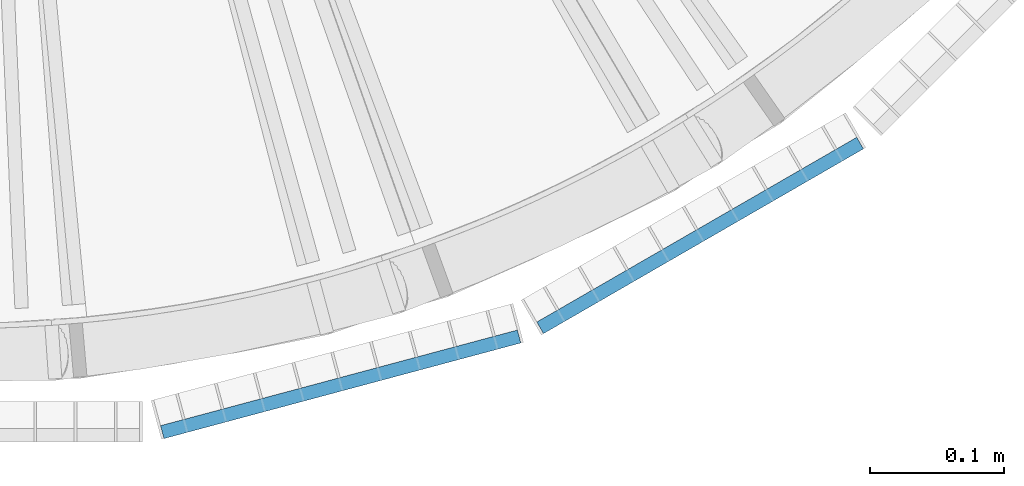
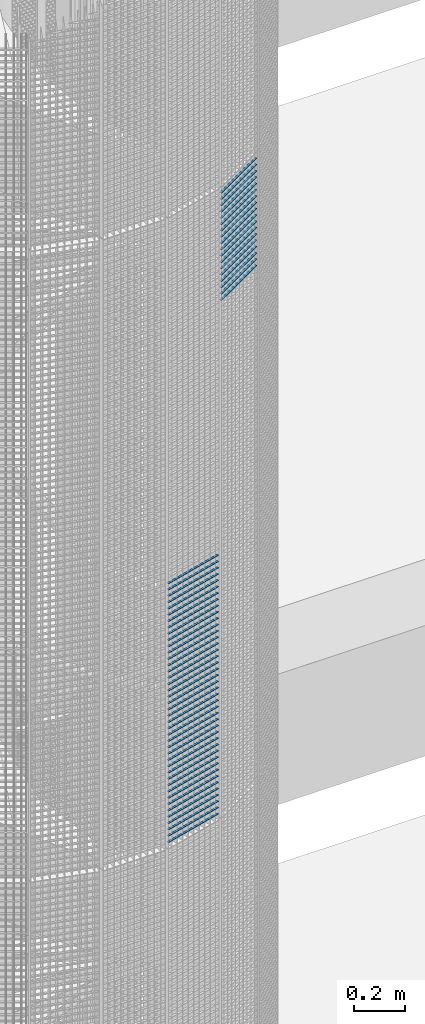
# One storey, part 384 of 1148: 60 beams, 2 elements without a shape of their own.
"""IFC2X3 building model written with IfcOpenShell, lengths in millimetres."""

from ifc_helpers import new_model, si_unit, frame, origin_with_axes, origin_2d_with_axis, place, context, subcontext, project, spatial, rectangle, extrude, material, type_object, element, aggregate, save


model = new_model("IFC2X3")

# Units and contexts
model_context = context("Model", 3, precision=1e-05, world=origin_with_axes())
body_context = subcontext(model_context, "Body", "Model", "MODEL_VIEW")
ifc_project = project(units=[si_unit("LENGTHUNIT", "METRE", prefix="MILLI"), si_unit("AREAUNIT", "SQUARE_METRE"), si_unit("VOLUMEUNIT", "CUBIC_METRE"), si_unit("MASSUNIT", "GRAM", prefix="KILO"), si_unit("TIMEUNIT", "SECOND"), si_unit("PLANEANGLEUNIT", "RADIAN"), si_unit("SOLIDANGLEUNIT", "STERADIAN"), si_unit("THERMODYNAMICTEMPERATUREUNIT", "DEGREE_CELSIUS"), si_unit("LUMINOUSINTENSITYUNIT", "LUMEN")], contexts=[model_context])

# Site, building, storey
site_placement = place(None, origin_with_axes())
site = spatial("IfcSite", under=ifc_project, at=site_placement, Name="Undefined", CompositionType="ELEMENT")
building_placement = place(site_placement, origin_with_axes())
building = spatial("IfcBuilding", under=site, at=building_placement, Name="Undefined", CompositionType="ELEMENT")
storey_placement = place(building_placement, origin_with_axes())
storey = spatial("IfcBuildingStorey", under=building, at=storey_placement, Name="Undefined", CompositionType="ELEMENT", Elevation=0.0)

# Assembly, beams
assembly_1_placement = place(storey_placement, origin_with_axes())
assembly_1 = element("IfcElementAssembly", 1, at=assembly_1_placement, inside=storey, Name="BORDURE", AssemblyPlace="NOTDEFINED", PredefinedType="NOTDEFINED")
ifc_material = material(Name="STEEL/S235JR")
beam_type = type_object("IfcBeamType", Name="PL2*10", PredefinedType="NOTDEFINED")
beam_1_placement = place(assembly_1_placement, frame((22021.4837339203, -1039.82309522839, 13260.0), z_axis=(0.258819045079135, -0.965925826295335, 0.0), x_axis=(-0.965925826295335, -0.258819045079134, 0.0)))
beam_1 = element("IfcBeam", 2, at=beam_1_placement, type_object=beam_type, material=ifc_material, Name="ENTRETOISE", context=body_context, shape_type="SweptSolid", body=[
    extrude(rectangle(XDim=2.0, YDim=10.0, at=origin_2d_with_axis()), frame((275.999999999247, 9.09494701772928e-13, 1.53210777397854e-14), z_axis=(-1.0, 0.0, 0.0), x_axis=(0.0, -1.0, 0.0)), (0.0, 0.0, 1.0), 276.0),
])
beam_2_placement = place(assembly_1_placement, frame((22021.4837339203, -1039.82309522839, 13230.0), z_axis=(0.258819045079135, -0.965925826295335, 0.0), x_axis=(-0.965925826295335, -0.258819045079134, 0.0)))
beam_2 = element("IfcBeam", 3, at=beam_2_placement, type_object=beam_type, material=ifc_material, Name="ENTRETOISE", context=body_context, shape_type="SweptSolid", body=[
    extrude(rectangle(XDim=2.0, YDim=10.0, at=origin_2d_with_axis()), frame((275.999999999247, 9.09494701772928e-13, 1.53210777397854e-14), z_axis=(-1.0, 0.0, 0.0), x_axis=(0.0, -1.0, 0.0)), (0.0, 0.0, 1.0), 276.0),
])
beam_3_placement = place(assembly_1_placement, frame((22021.4837339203, -1039.82309522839, 13200.0), z_axis=(0.258819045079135, -0.965925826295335, 0.0), x_axis=(-0.965925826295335, -0.258819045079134, 0.0)))
beam_3 = element("IfcBeam", 4, at=beam_3_placement, type_object=beam_type, material=ifc_material, Name="ENTRETOISE", context=body_context, shape_type="SweptSolid", body=[
    extrude(rectangle(XDim=2.0, YDim=10.0, at=origin_2d_with_axis()), frame((275.999999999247, 9.09494701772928e-13, 1.53210777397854e-14), z_axis=(-1.0, 0.0, 0.0), x_axis=(0.0, -1.0, 0.0)), (0.0, 0.0, 1.0), 276.0),
])
beam_4_placement = place(assembly_1_placement, frame((22021.4837339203, -1039.82309522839, 13170.0), z_axis=(0.258819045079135, -0.965925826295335, 0.0), x_axis=(-0.965925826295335, -0.258819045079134, 0.0)))
beam_4 = element("IfcBeam", 5, at=beam_4_placement, type_object=beam_type, material=ifc_material, Name="ENTRETOISE", context=body_context, shape_type="SweptSolid", body=[
    extrude(rectangle(XDim=2.0, YDim=10.0, at=origin_2d_with_axis()), frame((275.999999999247, 9.09494701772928e-13, 1.53210777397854e-14), z_axis=(-1.0, 0.0, 0.0), x_axis=(0.0, -1.0, 0.0)), (0.0, 0.0, 1.0), 276.0),
])
beam_5_placement = place(assembly_1_placement, frame((22021.4837339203, -1039.82309522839, 13140.0), z_axis=(0.258819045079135, -0.965925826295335, 0.0), x_axis=(-0.965925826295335, -0.258819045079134, 0.0)))
beam_5 = element("IfcBeam", 6, at=beam_5_placement, type_object=beam_type, material=ifc_material, Name="ENTRETOISE", context=body_context, shape_type="SweptSolid", body=[
    extrude(rectangle(XDim=2.0, YDim=10.0, at=origin_2d_with_axis()), frame((275.999999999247, 9.09494701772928e-13, 1.53210777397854e-14), z_axis=(-1.0, 0.0, 0.0), x_axis=(0.0, -1.0, 0.0)), (0.0, 0.0, 1.0), 276.0),
])
beam_6_placement = place(assembly_1_placement, frame((22021.4837339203, -1039.82309522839, 12720.0), z_axis=(0.258819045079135, -0.965925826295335, 0.0), x_axis=(-0.965925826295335, -0.258819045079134, 0.0)))
beam_6 = element("IfcBeam", 7, at=beam_6_placement, type_object=beam_type, material=ifc_material, Name="ENTRETOISE", context=body_context, shape_type="SweptSolid", body=[
    extrude(rectangle(XDim=2.0, YDim=10.0, at=origin_2d_with_axis()), frame((275.999999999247, 9.09494701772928e-13, 1.53210777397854e-14), z_axis=(-1.0, 0.0, 0.0), x_axis=(0.0, -1.0, 0.0)), (0.0, 0.0, 1.0), 276.0),
])
beam_7_placement = place(assembly_1_placement, frame((22021.4837339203, -1039.82309522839, 12690.0), z_axis=(0.258819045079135, -0.965925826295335, 0.0), x_axis=(-0.965925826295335, -0.258819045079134, 0.0)))
beam_7 = element("IfcBeam", 8, at=beam_7_placement, type_object=beam_type, material=ifc_material, Name="ENTRETOISE", context=body_context, shape_type="SweptSolid", body=[
    extrude(rectangle(XDim=2.0, YDim=10.0, at=origin_2d_with_axis()), frame((275.999999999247, 9.09494701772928e-13, 1.53210777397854e-14), z_axis=(-1.0, 0.0, 0.0), x_axis=(0.0, -1.0, 0.0)), (0.0, 0.0, 1.0), 276.0),
])
beam_8_placement = place(assembly_1_placement, frame((22021.4837339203, -1039.82309522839, 12750.0), z_axis=(0.258819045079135, -0.965925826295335, 0.0), x_axis=(-0.965925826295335, -0.258819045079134, 0.0)))
beam_8 = element("IfcBeam", 9, at=beam_8_placement, type_object=beam_type, material=ifc_material, Name="ENTRETOISE", context=body_context, shape_type="SweptSolid", body=[
    extrude(rectangle(XDim=2.0, YDim=10.0, at=origin_2d_with_axis()), frame((275.999999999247, 9.09494701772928e-13, 1.53210777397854e-14), z_axis=(-1.0, 0.0, 0.0), x_axis=(0.0, -1.0, 0.0)), (0.0, 0.0, 1.0), 276.0),
])
beam_9_placement = place(assembly_1_placement, frame((22021.4837339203, -1039.82309522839, 12660.0), z_axis=(0.258819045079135, -0.965925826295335, 0.0), x_axis=(-0.965925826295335, -0.258819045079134, 0.0)))
beam_9 = element("IfcBeam", 10, at=beam_9_placement, type_object=beam_type, material=ifc_material, Name="ENTRETOISE", context=body_context, shape_type="SweptSolid", body=[
    extrude(rectangle(XDim=2.0, YDim=10.0, at=origin_2d_with_axis()), frame((275.999999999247, 9.09494701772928e-13, 1.53210777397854e-14), z_axis=(-1.0, 0.0, 0.0), x_axis=(0.0, -1.0, 0.0)), (0.0, 0.0, 1.0), 276.0),
])
beam_10_placement = place(assembly_1_placement, frame((22021.4837339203, -1039.82309522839, 12630.0), z_axis=(0.258819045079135, -0.965925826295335, 0.0), x_axis=(-0.965925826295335, -0.258819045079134, 0.0)))
beam_10 = element("IfcBeam", 11, at=beam_10_placement, type_object=beam_type, material=ifc_material, Name="ENTRETOISE", context=body_context, shape_type="SweptSolid", body=[
    extrude(rectangle(XDim=2.0, YDim=10.0, at=origin_2d_with_axis()), frame((275.999999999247, 9.09494701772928e-13, 1.53210777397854e-14), z_axis=(-1.0, 0.0, 0.0), x_axis=(0.0, -1.0, 0.0)), (0.0, 0.0, 1.0), 276.0),
])
beam_11_placement = place(assembly_1_placement, frame((22021.4837339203, -1039.82309522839, 12780.0), z_axis=(0.258819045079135, -0.965925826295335, 0.0), x_axis=(-0.965925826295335, -0.258819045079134, 0.0)))
beam_11 = element("IfcBeam", 12, at=beam_11_placement, type_object=beam_type, material=ifc_material, Name="ENTRETOISE", context=body_context, shape_type="SweptSolid", body=[
    extrude(rectangle(XDim=2.0, YDim=10.0, at=origin_2d_with_axis()), frame((275.999999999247, 9.09494701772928e-13, 1.53210777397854e-14), z_axis=(-1.0, 0.0, 0.0), x_axis=(0.0, -1.0, 0.0)), (0.0, 0.0, 1.0), 276.0),
])
beam_12_placement = place(assembly_1_placement, frame((22021.4837339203, -1039.82309522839, 12600.0), z_axis=(0.258819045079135, -0.965925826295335, 0.0), x_axis=(-0.965925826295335, -0.258819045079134, 0.0)))
beam_12 = element("IfcBeam", 13, at=beam_12_placement, type_object=beam_type, material=ifc_material, Name="ENTRETOISE", context=body_context, shape_type="SweptSolid", body=[
    extrude(rectangle(XDim=2.0, YDim=10.0, at=origin_2d_with_axis()), frame((275.999999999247, 9.09494701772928e-13, 1.53210777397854e-14), z_axis=(-1.0, 0.0, 0.0), x_axis=(0.0, -1.0, 0.0)), (0.0, 0.0, 1.0), 276.0),
])
beam_13_placement = place(assembly_1_placement, frame((22021.4837339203, -1039.82309522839, 12810.0), z_axis=(0.258819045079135, -0.965925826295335, 0.0), x_axis=(-0.965925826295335, -0.258819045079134, 0.0)))
beam_13 = element("IfcBeam", 14, at=beam_13_placement, type_object=beam_type, material=ifc_material, Name="ENTRETOISE", context=body_context, shape_type="SweptSolid", body=[
    extrude(rectangle(XDim=2.0, YDim=10.0, at=origin_2d_with_axis()), frame((275.999999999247, 9.09494701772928e-13, 1.53210777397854e-14), z_axis=(-1.0, 0.0, 0.0), x_axis=(0.0, -1.0, 0.0)), (0.0, 0.0, 1.0), 276.0),
])
beam_14_placement = place(assembly_1_placement, frame((22021.4837339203, -1039.82309522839, 12570.0), z_axis=(0.258819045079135, -0.965925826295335, 0.0), x_axis=(-0.965925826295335, -0.258819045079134, 0.0)))
beam_14 = element("IfcBeam", 15, at=beam_14_placement, type_object=beam_type, material=ifc_material, Name="ENTRETOISE", context=body_context, shape_type="SweptSolid", body=[
    extrude(rectangle(XDim=2.0, YDim=10.0, at=origin_2d_with_axis()), frame((275.999999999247, 9.09494701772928e-13, 1.53210777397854e-14), z_axis=(-1.0, 0.0, 0.0), x_axis=(0.0, -1.0, 0.0)), (0.0, 0.0, 1.0), 276.0),
])
beam_15_placement = place(assembly_1_placement, frame((22021.4837339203, -1039.82309522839, 12540.0), z_axis=(0.258819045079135, -0.965925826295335, 0.0), x_axis=(-0.965925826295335, -0.258819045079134, 0.0)))
beam_15 = element("IfcBeam", 16, at=beam_15_placement, type_object=beam_type, material=ifc_material, Name="ENTRETOISE", context=body_context, shape_type="SweptSolid", body=[
    extrude(rectangle(XDim=2.0, YDim=10.0, at=origin_2d_with_axis()), frame((275.999999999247, 9.09494701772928e-13, 1.53210777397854e-14), z_axis=(-1.0, 0.0, 0.0), x_axis=(0.0, -1.0, 0.0)), (0.0, 0.0, 1.0), 276.0),
])
beam_16_placement = place(assembly_1_placement, frame((22021.4837339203, -1039.82309522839, 12840.0), z_axis=(0.258819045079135, -0.965925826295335, 0.0), x_axis=(-0.965925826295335, -0.258819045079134, 0.0)))
beam_16 = element("IfcBeam", 17, at=beam_16_placement, type_object=beam_type, material=ifc_material, Name="ENTRETOISE", context=body_context, shape_type="SweptSolid", body=[
    extrude(rectangle(XDim=2.0, YDim=10.0, at=origin_2d_with_axis()), frame((275.999999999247, 9.09494701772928e-13, 1.53210777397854e-14), z_axis=(-1.0, 0.0, 0.0), x_axis=(0.0, -1.0, 0.0)), (0.0, 0.0, 1.0), 276.0),
])
beam_17_placement = place(assembly_1_placement, frame((22021.4837339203, -1039.82309522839, 12510.0), z_axis=(0.258819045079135, -0.965925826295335, 0.0), x_axis=(-0.965925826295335, -0.258819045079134, 0.0)))
beam_17 = element("IfcBeam", 18, at=beam_17_placement, type_object=beam_type, material=ifc_material, Name="ENTRETOISE", context=body_context, shape_type="SweptSolid", body=[
    extrude(rectangle(XDim=2.0, YDim=10.0, at=origin_2d_with_axis()), frame((275.999999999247, 9.09494701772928e-13, 1.53210777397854e-14), z_axis=(-1.0, 0.0, 0.0), x_axis=(0.0, -1.0, 0.0)), (0.0, 0.0, 1.0), 276.0),
])
beam_18_placement = place(assembly_1_placement, frame((22021.4837339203, -1039.82309522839, 12480.0), z_axis=(0.258819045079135, -0.965925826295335, 0.0), x_axis=(-0.965925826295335, -0.258819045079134, 0.0)))
beam_18 = element("IfcBeam", 19, at=beam_18_placement, type_object=beam_type, material=ifc_material, Name="ENTRETOISE", context=body_context, shape_type="SweptSolid", body=[
    extrude(rectangle(XDim=2.0, YDim=10.0, at=origin_2d_with_axis()), frame((275.999999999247, 9.09494701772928e-13, 1.53210777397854e-14), z_axis=(-1.0, 0.0, 0.0), x_axis=(0.0, -1.0, 0.0)), (0.0, 0.0, 1.0), 276.0),
])
beam_19_placement = place(assembly_1_placement, frame((22021.4837339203, -1039.82309522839, 12870.0), z_axis=(0.258819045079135, -0.965925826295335, 0.0), x_axis=(-0.965925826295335, -0.258819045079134, 0.0)))
beam_19 = element("IfcBeam", 20, at=beam_19_placement, type_object=beam_type, material=ifc_material, Name="ENTRETOISE", context=body_context, shape_type="SweptSolid", body=[
    extrude(rectangle(XDim=2.0, YDim=10.0, at=origin_2d_with_axis()), frame((275.999999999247, 9.09494701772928e-13, 1.53210777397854e-14), z_axis=(-1.0, 0.0, 0.0), x_axis=(0.0, -1.0, 0.0)), (0.0, 0.0, 1.0), 276.0),
])
beam_20_placement = place(assembly_1_placement, frame((22021.4837339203, -1039.82309522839, 12450.0), z_axis=(0.258819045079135, -0.965925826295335, 0.0), x_axis=(-0.965925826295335, -0.258819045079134, 0.0)))
beam_20 = element("IfcBeam", 21, at=beam_20_placement, type_object=beam_type, material=ifc_material, Name="ENTRETOISE", context=body_context, shape_type="SweptSolid", body=[
    extrude(rectangle(XDim=2.0, YDim=10.0, at=origin_2d_with_axis()), frame((275.999999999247, 9.09494701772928e-13, 1.53210777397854e-14), z_axis=(-1.0, 0.0, 0.0), x_axis=(0.0, -1.0, 0.0)), (0.0, 0.0, 1.0), 276.0),
])
beam_21_placement = place(assembly_1_placement, frame((22021.4837339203, -1039.82309522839, 12420.0), z_axis=(0.258819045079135, -0.965925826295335, 0.0), x_axis=(-0.965925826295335, -0.258819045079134, 0.0)))
beam_21 = element("IfcBeam", 22, at=beam_21_placement, type_object=beam_type, material=ifc_material, Name="ENTRETOISE", context=body_context, shape_type="SweptSolid", body=[
    extrude(rectangle(XDim=2.0, YDim=10.0, at=origin_2d_with_axis()), frame((275.999999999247, 9.09494701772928e-13, 1.53210777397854e-14), z_axis=(-1.0, 0.0, 0.0), x_axis=(0.0, -1.0, 0.0)), (0.0, 0.0, 1.0), 276.0),
])
beam_22_placement = place(assembly_1_placement, frame((22021.4837339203, -1039.82309522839, 12900.0), z_axis=(0.258819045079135, -0.965925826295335, 0.0), x_axis=(-0.965925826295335, -0.258819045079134, 0.0)))
beam_22 = element("IfcBeam", 23, at=beam_22_placement, type_object=beam_type, material=ifc_material, Name="ENTRETOISE", context=body_context, shape_type="SweptSolid", body=[
    extrude(rectangle(XDim=2.0, YDim=10.0, at=origin_2d_with_axis()), frame((275.999999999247, 9.09494701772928e-13, 1.53210777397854e-14), z_axis=(-1.0, 0.0, 0.0), x_axis=(0.0, -1.0, 0.0)), (0.0, 0.0, 1.0), 276.0),
])
beam_23_placement = place(assembly_1_placement, frame((22021.4837339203, -1039.82309522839, 12390.0), z_axis=(0.258819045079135, -0.965925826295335, 0.0), x_axis=(-0.965925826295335, -0.258819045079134, 0.0)))
beam_23 = element("IfcBeam", 24, at=beam_23_placement, type_object=beam_type, material=ifc_material, Name="ENTRETOISE", context=body_context, shape_type="SweptSolid", body=[
    extrude(rectangle(XDim=2.0, YDim=10.0, at=origin_2d_with_axis()), frame((275.999999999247, 9.09494701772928e-13, 1.53210777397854e-14), z_axis=(-1.0, 0.0, 0.0), x_axis=(0.0, -1.0, 0.0)), (0.0, 0.0, 1.0), 276.0),
])
beam_24_placement = place(assembly_1_placement, frame((22021.4837339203, -1039.82309522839, 12930.0), z_axis=(0.258819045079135, -0.965925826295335, 0.0), x_axis=(-0.965925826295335, -0.258819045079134, 0.0)))
beam_24 = element("IfcBeam", 25, at=beam_24_placement, type_object=beam_type, material=ifc_material, Name="ENTRETOISE", context=body_context, shape_type="SweptSolid", body=[
    extrude(rectangle(XDim=2.0, YDim=10.0, at=origin_2d_with_axis()), frame((275.999999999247, 9.09494701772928e-13, 1.53210777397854e-14), z_axis=(-1.0, 0.0, 0.0), x_axis=(0.0, -1.0, 0.0)), (0.0, 0.0, 1.0), 276.0),
])
beam_25_placement = place(assembly_1_placement, frame((22021.4837339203, -1039.82309522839, 12360.0), z_axis=(0.258819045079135, -0.965925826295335, 0.0), x_axis=(-0.965925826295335, -0.258819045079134, 0.0)))
beam_25 = element("IfcBeam", 26, at=beam_25_placement, type_object=beam_type, material=ifc_material, Name="ENTRETOISE", context=body_context, shape_type="SweptSolid", body=[
    extrude(rectangle(XDim=2.0, YDim=10.0, at=origin_2d_with_axis()), frame((275.999999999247, 9.09494701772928e-13, 1.53210777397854e-14), z_axis=(-1.0, 0.0, 0.0), x_axis=(0.0, -1.0, 0.0)), (0.0, 0.0, 1.0), 276.0),
])
beam_26_placement = place(assembly_1_placement, frame((22021.4837339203, -1039.82309522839, 12330.0), z_axis=(0.258819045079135, -0.965925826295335, 0.0), x_axis=(-0.965925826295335, -0.258819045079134, 0.0)))
beam_26 = element("IfcBeam", 27, at=beam_26_placement, type_object=beam_type, material=ifc_material, Name="ENTRETOISE", context=body_context, shape_type="SweptSolid", body=[
    extrude(rectangle(XDim=2.0, YDim=10.0, at=origin_2d_with_axis()), frame((275.999999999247, 9.09494701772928e-13, 1.53210777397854e-14), z_axis=(-1.0, 0.0, 0.0), x_axis=(0.0, -1.0, 0.0)), (0.0, 0.0, 1.0), 276.0),
])
beam_27_placement = place(assembly_1_placement, frame((22021.4837339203, -1039.82309522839, 12960.0), z_axis=(0.258819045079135, -0.965925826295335, 0.0), x_axis=(-0.965925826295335, -0.258819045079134, 0.0)))
beam_27 = element("IfcBeam", 28, at=beam_27_placement, type_object=beam_type, material=ifc_material, Name="ENTRETOISE", context=body_context, shape_type="SweptSolid", body=[
    extrude(rectangle(XDim=2.0, YDim=10.0, at=origin_2d_with_axis()), frame((275.999999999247, 9.09494701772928e-13, 1.53210777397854e-14), z_axis=(-1.0, 0.0, 0.0), x_axis=(0.0, -1.0, 0.0)), (0.0, 0.0, 1.0), 276.0),
])
beam_28_placement = place(assembly_1_placement, frame((22021.4837339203, -1039.82309522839, 12300.0), z_axis=(0.258819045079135, -0.965925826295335, 0.0), x_axis=(-0.965925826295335, -0.258819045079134, 0.0)))
beam_28 = element("IfcBeam", 29, at=beam_28_placement, type_object=beam_type, material=ifc_material, Name="ENTRETOISE", context=body_context, shape_type="SweptSolid", body=[
    extrude(rectangle(XDim=2.0, YDim=10.0, at=origin_2d_with_axis()), frame((275.999999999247, 9.09494701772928e-13, 1.53210777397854e-14), z_axis=(-1.0, 0.0, 0.0), x_axis=(0.0, -1.0, 0.0)), (0.0, 0.0, 1.0), 276.0),
])
beam_29_placement = place(assembly_1_placement, frame((22021.4837339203, -1039.82309522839, 12270.0), z_axis=(0.258819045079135, -0.965925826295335, 0.0), x_axis=(-0.965925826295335, -0.258819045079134, 0.0)))
beam_29 = element("IfcBeam", 30, at=beam_29_placement, type_object=beam_type, material=ifc_material, Name="ENTRETOISE", context=body_context, shape_type="SweptSolid", body=[
    extrude(rectangle(XDim=2.0, YDim=10.0, at=origin_2d_with_axis()), frame((275.999999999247, 9.09494701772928e-13, 1.53210777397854e-14), z_axis=(-1.0, 0.0, 0.0), x_axis=(0.0, -1.0, 0.0)), (0.0, 0.0, 1.0), 276.0),
])
beam_30_placement = place(assembly_1_placement, frame((22021.4837339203, -1039.82309522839, 12990.0), z_axis=(0.258819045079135, -0.965925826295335, 0.0), x_axis=(-0.965925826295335, -0.258819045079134, 0.0)))
beam_30 = element("IfcBeam", 31, at=beam_30_placement, type_object=beam_type, material=ifc_material, Name="ENTRETOISE", context=body_context, shape_type="SweptSolid", body=[
    extrude(rectangle(XDim=2.0, YDim=10.0, at=origin_2d_with_axis()), frame((275.999999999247, 9.09494701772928e-13, 1.53210777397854e-14), z_axis=(-1.0, 0.0, 0.0), x_axis=(0.0, -1.0, 0.0)), (0.0, 0.0, 1.0), 276.0),
])
beam_31_placement = place(assembly_1_placement, frame((22021.4837339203, -1039.82309522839, 12240.0), z_axis=(0.258819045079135, -0.965925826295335, 0.0), x_axis=(-0.965925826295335, -0.258819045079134, 0.0)))
beam_31 = element("IfcBeam", 32, at=beam_31_placement, type_object=beam_type, material=ifc_material, Name="ENTRETOISE", context=body_context, shape_type="SweptSolid", body=[
    extrude(rectangle(XDim=2.0, YDim=10.0, at=origin_2d_with_axis()), frame((275.999999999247, 9.09494701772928e-13, 1.53210777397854e-14), z_axis=(-1.0, 0.0, 0.0), x_axis=(0.0, -1.0, 0.0)), (0.0, 0.0, 1.0), 276.0),
])
beam_32_placement = place(assembly_1_placement, frame((22021.4837339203, -1039.82309522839, 13020.0), z_axis=(0.258819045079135, -0.965925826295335, 0.0), x_axis=(-0.965925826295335, -0.258819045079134, 0.0)))
beam_32 = element("IfcBeam", 33, at=beam_32_placement, type_object=beam_type, material=ifc_material, Name="ENTRETOISE", context=body_context, shape_type="SweptSolid", body=[
    extrude(rectangle(XDim=2.0, YDim=10.0, at=origin_2d_with_axis()), frame((275.999999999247, 9.09494701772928e-13, 1.53210777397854e-14), z_axis=(-1.0, 0.0, 0.0), x_axis=(0.0, -1.0, 0.0)), (0.0, 0.0, 1.0), 276.0),
])
beam_33_placement = place(assembly_1_placement, frame((22021.4837339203, -1039.82309522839, 12210.0), z_axis=(0.258819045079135, -0.965925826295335, 0.0), x_axis=(-0.965925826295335, -0.258819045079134, 0.0)))
beam_33 = element("IfcBeam", 34, at=beam_33_placement, type_object=beam_type, material=ifc_material, Name="ENTRETOISE", context=body_context, shape_type="SweptSolid", body=[
    extrude(rectangle(XDim=2.0, YDim=10.0, at=origin_2d_with_axis()), frame((275.999999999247, 9.09494701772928e-13, 1.53210777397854e-14), z_axis=(-1.0, 0.0, 0.0), x_axis=(0.0, -1.0, 0.0)), (0.0, 0.0, 1.0), 276.0),
])
beam_34_placement = place(assembly_1_placement, frame((22021.4837339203, -1039.82309522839, 12180.0), z_axis=(0.258819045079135, -0.965925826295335, 0.0), x_axis=(-0.965925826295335, -0.258819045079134, 0.0)))
beam_34 = element("IfcBeam", 35, at=beam_34_placement, type_object=beam_type, material=ifc_material, Name="ENTRETOISE", context=body_context, shape_type="SweptSolid", body=[
    extrude(rectangle(XDim=2.0, YDim=10.0, at=origin_2d_with_axis()), frame((275.999999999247, 9.09494701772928e-13, 1.53210777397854e-14), z_axis=(-1.0, 0.0, 0.0), x_axis=(0.0, -1.0, 0.0)), (0.0, 0.0, 1.0), 276.0),
])
beam_35_placement = place(assembly_1_placement, frame((22021.4837339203, -1039.82309522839, 13050.0), z_axis=(0.258819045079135, -0.965925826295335, 0.0), x_axis=(-0.965925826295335, -0.258819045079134, 0.0)))
beam_35 = element("IfcBeam", 36, at=beam_35_placement, type_object=beam_type, material=ifc_material, Name="ENTRETOISE", context=body_context, shape_type="SweptSolid", body=[
    extrude(rectangle(XDim=2.0, YDim=10.0, at=origin_2d_with_axis()), frame((275.999999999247, 9.09494701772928e-13, 1.53210777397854e-14), z_axis=(-1.0, 0.0, 0.0), x_axis=(0.0, -1.0, 0.0)), (0.0, 0.0, 1.0), 276.0),
])
beam_36_placement = place(assembly_1_placement, frame((22021.4837339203, -1039.82309522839, 12150.0), z_axis=(0.258819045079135, -0.965925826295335, 0.0), x_axis=(-0.965925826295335, -0.258819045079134, 0.0)))
beam_36 = element("IfcBeam", 37, at=beam_36_placement, type_object=beam_type, material=ifc_material, Name="ENTRETOISE", context=body_context, shape_type="SweptSolid", body=[
    extrude(rectangle(XDim=2.0, YDim=10.0, at=origin_2d_with_axis()), frame((275.999999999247, 9.09494701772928e-13, 1.53210777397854e-14), z_axis=(-1.0, 0.0, 0.0), x_axis=(0.0, -1.0, 0.0)), (0.0, 0.0, 1.0), 276.0),
])
beam_37_placement = place(assembly_1_placement, frame((22021.4837339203, -1039.82309522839, 12120.0), z_axis=(0.258819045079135, -0.965925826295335, 0.0), x_axis=(-0.965925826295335, -0.258819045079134, 0.0)))
beam_37 = element("IfcBeam", 38, at=beam_37_placement, type_object=beam_type, material=ifc_material, Name="ENTRETOISE", context=body_context, shape_type="SweptSolid", body=[
    extrude(rectangle(XDim=2.0, YDim=10.0, at=origin_2d_with_axis()), frame((275.999999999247, 9.09494701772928e-13, 1.53210777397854e-14), z_axis=(-1.0, 0.0, 0.0), x_axis=(0.0, -1.0, 0.0)), (0.0, 0.0, 1.0), 276.0),
])
beam_38_placement = place(assembly_1_placement, frame((22021.4837339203, -1039.82309522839, 13080.0), z_axis=(0.258819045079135, -0.965925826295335, 0.0), x_axis=(-0.965925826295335, -0.258819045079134, 0.0)))
beam_38 = element("IfcBeam", 39, at=beam_38_placement, type_object=beam_type, material=ifc_material, Name="ENTRETOISE", context=body_context, shape_type="SweptSolid", body=[
    extrude(rectangle(XDim=2.0, YDim=10.0, at=origin_2d_with_axis()), frame((275.999999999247, 9.09494701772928e-13, 1.53210777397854e-14), z_axis=(-1.0, 0.0, 0.0), x_axis=(0.0, -1.0, 0.0)), (0.0, 0.0, 1.0), 276.0),
])
beam_39_placement = place(assembly_1_placement, frame((22021.4837339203, -1039.82309522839, 12090.0), z_axis=(0.258819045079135, -0.965925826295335, 0.0), x_axis=(-0.965925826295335, -0.258819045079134, 0.0)))
beam_39 = element("IfcBeam", 40, at=beam_39_placement, type_object=beam_type, material=ifc_material, Name="ENTRETOISE", context=body_context, shape_type="SweptSolid", body=[
    extrude(rectangle(XDim=2.0, YDim=10.0, at=origin_2d_with_axis()), frame((275.999999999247, 9.09494701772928e-13, 1.53210777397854e-14), z_axis=(-1.0, 0.0, 0.0), x_axis=(0.0, -1.0, 0.0)), (0.0, 0.0, 1.0), 276.0),
])
beam_40_placement = place(assembly_1_placement, frame((22021.4837339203, -1039.82309522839, 12060.0), z_axis=(0.258819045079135, -0.965925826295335, 0.0), x_axis=(-0.965925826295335, -0.258819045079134, 0.0)))
beam_40 = element("IfcBeam", 41, at=beam_40_placement, type_object=beam_type, material=ifc_material, Name="ENTRETOISE", context=body_context, shape_type="SweptSolid", body=[
    extrude(rectangle(XDim=2.0, YDim=10.0, at=origin_2d_with_axis()), frame((275.999999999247, 9.09494701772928e-13, 1.53210777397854e-14), z_axis=(-1.0, 0.0, 0.0), x_axis=(0.0, -1.0, 0.0)), (0.0, 0.0, 1.0), 276.0),
])
beam_41_placement = place(assembly_1_placement, frame((22021.4837339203, -1039.82309522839, 13110.0), z_axis=(0.258819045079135, -0.965925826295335, 0.0), x_axis=(-0.965925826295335, -0.258819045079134, 0.0)))
beam_41 = element("IfcBeam", 42, at=beam_41_placement, type_object=beam_type, material=ifc_material, Name="ENTRETOISE", context=body_context, shape_type="SweptSolid", body=[
    extrude(rectangle(XDim=2.0, YDim=10.0, at=origin_2d_with_axis()), frame((275.999999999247, 9.09494701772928e-13, 1.53210777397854e-14), z_axis=(-1.0, 0.0, 0.0), x_axis=(0.0, -1.0, 0.0)), (0.0, 0.0, 1.0), 276.0),
])
beam_42_placement = place(assembly_1_placement, frame((22021.4837339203, -1039.82309522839, 12030.0), z_axis=(0.258819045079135, -0.965925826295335, 0.0), x_axis=(-0.965925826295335, -0.258819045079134, 0.0)))
beam_42 = element("IfcBeam", 43, at=beam_42_placement, type_object=beam_type, material=ifc_material, Name="ENTRETOISE", context=body_context, shape_type="SweptSolid", body=[
    extrude(rectangle(XDim=2.0, YDim=10.0, at=origin_2d_with_axis()), frame((275.999999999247, 9.09494701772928e-13, 1.53210777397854e-14), z_axis=(-1.0, 0.0, 0.0), x_axis=(0.0, -1.0, 0.0)), (0.0, 0.0, 1.0), 276.0),
])
aggregate(assembly_1, [beam_1, beam_2, beam_3, beam_4, beam_5, beam_6, beam_7, beam_8, beam_9, beam_10, beam_11, beam_12, beam_13, beam_14, beam_15, beam_16, beam_17, beam_18, beam_19, beam_20, beam_21, beam_22, beam_23, beam_24, beam_25, beam_26, beam_27, beam_28, beam_29, beam_30, beam_31, beam_32, beam_33, beam_34, beam_35, beam_36, beam_37, beam_38, beam_39, beam_40, beam_41, beam_42])

assembly_2_placement = place(storey_placement, origin_with_axes())
assembly_2 = element("IfcElementAssembly", 44, at=assembly_2_placement, inside=storey, Name="BORDURE", AssemblyPlace="NOTDEFINED", PredefinedType="NOTDEFINED")
beam_43_placement = place(assembly_2_placement, frame((22276.2480445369, -895.303964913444, 14970.0), z_axis=(0.499999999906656, -0.866025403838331, 0.0), x_axis=(-0.866025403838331, -0.499999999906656, 0.0)))
beam_43 = element("IfcBeam", 45, at=beam_43_placement, type_object=beam_type, material=ifc_material, Name="ENTRETOISE", context=body_context, shape_type="SweptSolid", body=[
    extrude(rectangle(XDim=2.0, YDim=10.0, at=origin_2d_with_axis()), frame((275.999999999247, 9.09494701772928e-13, 1.53210777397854e-14), z_axis=(-1.0, 0.0, 0.0), x_axis=(0.0, -1.0, 0.0)), (0.0, 0.0, 1.0), 276.0),
])
beam_44_placement = place(assembly_2_placement, frame((22276.2480445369, -895.303964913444, 14940.0), z_axis=(0.499999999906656, -0.866025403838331, 0.0), x_axis=(-0.866025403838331, -0.499999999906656, 0.0)))
beam_44 = element("IfcBeam", 46, at=beam_44_placement, type_object=beam_type, material=ifc_material, Name="ENTRETOISE", context=body_context, shape_type="SweptSolid", body=[
    extrude(rectangle(XDim=2.0, YDim=10.0, at=origin_2d_with_axis()), frame((275.999999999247, 9.09494701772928e-13, 1.53210777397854e-14), z_axis=(-1.0, 0.0, 0.0), x_axis=(0.0, -1.0, 0.0)), (0.0, 0.0, 1.0), 276.0),
])
beam_45_placement = place(assembly_2_placement, frame((22276.2480445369, -895.303964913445, 14910.0), z_axis=(0.499999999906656, -0.866025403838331, 0.0), x_axis=(-0.866025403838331, -0.499999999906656, 0.0)))
beam_45 = element("IfcBeam", 47, at=beam_45_placement, type_object=beam_type, material=ifc_material, Name="ENTRETOISE", context=body_context, shape_type="SweptSolid", body=[
    extrude(rectangle(XDim=2.0, YDim=10.0, at=origin_2d_with_axis()), frame((275.999999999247, 9.09494701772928e-13, 1.53210777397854e-14), z_axis=(-1.0, 0.0, 0.0), x_axis=(0.0, -1.0, 0.0)), (0.0, 0.0, 1.0), 276.0),
])
beam_46_placement = place(assembly_2_placement, frame((22276.2480445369, -895.303964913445, 14880.0), z_axis=(0.499999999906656, -0.866025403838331, 0.0), x_axis=(-0.866025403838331, -0.499999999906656, 0.0)))
beam_46 = element("IfcBeam", 48, at=beam_46_placement, type_object=beam_type, material=ifc_material, Name="ENTRETOISE", context=body_context, shape_type="SweptSolid", body=[
    extrude(rectangle(XDim=2.0, YDim=10.0, at=origin_2d_with_axis()), frame((275.999999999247, 9.09494701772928e-13, 1.53210777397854e-14), z_axis=(-1.0, 0.0, 0.0), x_axis=(0.0, -1.0, 0.0)), (0.0, 0.0, 1.0), 276.0),
])
beam_47_placement = place(assembly_2_placement, frame((22276.2480445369, -895.303964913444, 14850.0), z_axis=(0.499999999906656, -0.866025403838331, 0.0), x_axis=(-0.866025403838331, -0.499999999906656, 0.0)))
beam_47 = element("IfcBeam", 49, at=beam_47_placement, type_object=beam_type, material=ifc_material, Name="ENTRETOISE", context=body_context, shape_type="SweptSolid", body=[
    extrude(rectangle(XDim=2.0, YDim=10.0, at=origin_2d_with_axis()), frame((275.999999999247, 9.09494701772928e-13, 1.53210777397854e-14), z_axis=(-1.0, 0.0, 0.0), x_axis=(0.0, -1.0, 0.0)), (0.0, 0.0, 1.0), 276.0),
])
beam_48_placement = place(assembly_2_placement, frame((22276.2480445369, -895.303964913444, 14820.0), z_axis=(0.499999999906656, -0.866025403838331, 0.0), x_axis=(-0.866025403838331, -0.499999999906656, 0.0)))
beam_48 = element("IfcBeam", 50, at=beam_48_placement, type_object=beam_type, material=ifc_material, Name="ENTRETOISE", context=body_context, shape_type="SweptSolid", body=[
    extrude(rectangle(XDim=2.0, YDim=10.0, at=origin_2d_with_axis()), frame((275.999999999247, 9.09494701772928e-13, 1.53210777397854e-14), z_axis=(-1.0, 0.0, 0.0), x_axis=(0.0, -1.0, 0.0)), (0.0, 0.0, 1.0), 276.0),
])
beam_49_placement = place(assembly_2_placement, frame((22276.2480445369, -895.303964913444, 14790.0), z_axis=(0.499999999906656, -0.866025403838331, 0.0), x_axis=(-0.866025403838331, -0.499999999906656, 0.0)))
beam_49 = element("IfcBeam", 51, at=beam_49_placement, type_object=beam_type, material=ifc_material, Name="ENTRETOISE", context=body_context, shape_type="SweptSolid", body=[
    extrude(rectangle(XDim=2.0, YDim=10.0, at=origin_2d_with_axis()), frame((275.999999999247, 9.09494701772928e-13, 1.53210777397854e-14), z_axis=(-1.0, 0.0, 0.0), x_axis=(0.0, -1.0, 0.0)), (0.0, 0.0, 1.0), 276.0),
])
beam_50_placement = place(assembly_2_placement, frame((22276.2480445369, -895.303964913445, 14760.0), z_axis=(0.499999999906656, -0.866025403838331, 0.0), x_axis=(-0.866025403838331, -0.499999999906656, 0.0)))
beam_50 = element("IfcBeam", 52, at=beam_50_placement, type_object=beam_type, material=ifc_material, Name="ENTRETOISE", context=body_context, shape_type="SweptSolid", body=[
    extrude(rectangle(XDim=2.0, YDim=10.0, at=origin_2d_with_axis()), frame((275.999999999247, 9.09494701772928e-13, 1.53210777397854e-14), z_axis=(-1.0, 0.0, 0.0), x_axis=(0.0, -1.0, 0.0)), (0.0, 0.0, 1.0), 276.0),
])
beam_51_placement = place(assembly_2_placement, frame((22276.2480445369, -895.303964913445, 14730.0), z_axis=(0.499999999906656, -0.866025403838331, 0.0), x_axis=(-0.866025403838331, -0.499999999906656, 0.0)))
beam_51 = element("IfcBeam", 53, at=beam_51_placement, type_object=beam_type, material=ifc_material, Name="ENTRETOISE", context=body_context, shape_type="SweptSolid", body=[
    extrude(rectangle(XDim=2.0, YDim=10.0, at=origin_2d_with_axis()), frame((275.999999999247, 9.09494701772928e-13, 1.53210777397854e-14), z_axis=(-1.0, 0.0, 0.0), x_axis=(0.0, -1.0, 0.0)), (0.0, 0.0, 1.0), 276.0),
])
beam_52_placement = place(assembly_2_placement, frame((22276.2480445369, -895.303964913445, 14700.0), z_axis=(0.499999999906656, -0.866025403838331, 0.0), x_axis=(-0.866025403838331, -0.499999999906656, 0.0)))
beam_52 = element("IfcBeam", 54, at=beam_52_placement, type_object=beam_type, material=ifc_material, Name="ENTRETOISE", context=body_context, shape_type="SweptSolid", body=[
    extrude(rectangle(XDim=2.0, YDim=10.0, at=origin_2d_with_axis()), frame((275.999999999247, 9.09494701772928e-13, 1.53210777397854e-14), z_axis=(-1.0, 0.0, 0.0), x_axis=(0.0, -1.0, 0.0)), (0.0, 0.0, 1.0), 276.0),
])
beam_53_placement = place(assembly_2_placement, frame((22276.2480445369, -895.303964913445, 14670.0), z_axis=(0.499999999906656, -0.866025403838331, 0.0), x_axis=(-0.866025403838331, -0.499999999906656, 0.0)))
beam_53 = element("IfcBeam", 55, at=beam_53_placement, type_object=beam_type, material=ifc_material, Name="ENTRETOISE", context=body_context, shape_type="SweptSolid", body=[
    extrude(rectangle(XDim=2.0, YDim=10.0, at=origin_2d_with_axis()), frame((275.999999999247, 9.09494701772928e-13, 1.53210777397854e-14), z_axis=(-1.0, 0.0, 0.0), x_axis=(0.0, -1.0, 0.0)), (0.0, 0.0, 1.0), 276.0),
])
beam_54_placement = place(assembly_2_placement, frame((22276.2480445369, -895.303964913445, 14640.0), z_axis=(0.499999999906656, -0.866025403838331, 0.0), x_axis=(-0.866025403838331, -0.499999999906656, 0.0)))
beam_54 = element("IfcBeam", 56, at=beam_54_placement, type_object=beam_type, material=ifc_material, Name="ENTRETOISE", context=body_context, shape_type="SweptSolid", body=[
    extrude(rectangle(XDim=2.0, YDim=10.0, at=origin_2d_with_axis()), frame((275.999999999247, 9.09494701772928e-13, 1.53210777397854e-14), z_axis=(-1.0, 0.0, 0.0), x_axis=(0.0, -1.0, 0.0)), (0.0, 0.0, 1.0), 276.0),
])
beam_55_placement = place(assembly_2_placement, frame((22276.2480445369, -895.303964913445, 14610.0), z_axis=(0.499999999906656, -0.866025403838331, 0.0), x_axis=(-0.866025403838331, -0.499999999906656, 0.0)))
beam_55 = element("IfcBeam", 57, at=beam_55_placement, type_object=beam_type, material=ifc_material, Name="ENTRETOISE", context=body_context, shape_type="SweptSolid", body=[
    extrude(rectangle(XDim=2.0, YDim=10.0, at=origin_2d_with_axis()), frame((275.999999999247, 9.09494701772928e-13, 1.53210777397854e-14), z_axis=(-1.0, 0.0, 0.0), x_axis=(0.0, -1.0, 0.0)), (0.0, 0.0, 1.0), 276.0),
])
beam_56_placement = place(assembly_2_placement, frame((22276.2480445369, -895.303964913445, 14580.0), z_axis=(0.499999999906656, -0.866025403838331, 0.0), x_axis=(-0.866025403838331, -0.499999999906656, 0.0)))
beam_56 = element("IfcBeam", 58, at=beam_56_placement, type_object=beam_type, material=ifc_material, Name="ENTRETOISE", context=body_context, shape_type="SweptSolid", body=[
    extrude(rectangle(XDim=2.0, YDim=10.0, at=origin_2d_with_axis()), frame((275.999999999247, 9.09494701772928e-13, 1.53210777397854e-14), z_axis=(-1.0, 0.0, 0.0), x_axis=(0.0, -1.0, 0.0)), (0.0, 0.0, 1.0), 276.0),
])
beam_57_placement = place(assembly_2_placement, frame((22276.2480445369, -895.303964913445, 14550.0), z_axis=(0.499999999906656, -0.866025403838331, 0.0), x_axis=(-0.866025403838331, -0.499999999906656, 0.0)))
beam_57 = element("IfcBeam", 59, at=beam_57_placement, type_object=beam_type, material=ifc_material, Name="ENTRETOISE", context=body_context, shape_type="SweptSolid", body=[
    extrude(rectangle(XDim=2.0, YDim=10.0, at=origin_2d_with_axis()), frame((275.999999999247, 9.09494701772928e-13, 1.53210777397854e-14), z_axis=(-1.0, 0.0, 0.0), x_axis=(0.0, -1.0, 0.0)), (0.0, 0.0, 1.0), 276.0),
])
beam_58_placement = place(assembly_2_placement, frame((22276.2480445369, -895.303964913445, 14520.0), z_axis=(0.499999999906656, -0.866025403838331, 0.0), x_axis=(-0.866025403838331, -0.499999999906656, 0.0)))
beam_58 = element("IfcBeam", 60, at=beam_58_placement, type_object=beam_type, material=ifc_material, Name="ENTRETOISE", context=body_context, shape_type="SweptSolid", body=[
    extrude(rectangle(XDim=2.0, YDim=10.0, at=origin_2d_with_axis()), frame((275.999999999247, 9.09494701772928e-13, 1.53210777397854e-14), z_axis=(-1.0, 0.0, 0.0), x_axis=(0.0, -1.0, 0.0)), (0.0, 0.0, 1.0), 276.0),
])
beam_59_placement = place(assembly_2_placement, frame((22276.2480445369, -895.303964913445, 14490.0), z_axis=(0.499999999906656, -0.866025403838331, 0.0), x_axis=(-0.866025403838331, -0.499999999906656, 0.0)))
beam_59 = element("IfcBeam", 61, at=beam_59_placement, type_object=beam_type, material=ifc_material, Name="ENTRETOISE", context=body_context, shape_type="SweptSolid", body=[
    extrude(rectangle(XDim=2.0, YDim=10.0, at=origin_2d_with_axis()), frame((275.999999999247, 9.09494701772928e-13, 1.53210777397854e-14), z_axis=(-1.0, 0.0, 0.0), x_axis=(0.0, -1.0, 0.0)), (0.0, 0.0, 1.0), 276.0),
])
beam_60_placement = place(assembly_2_placement, frame((22276.2480445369, -895.303964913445, 14460.0), z_axis=(0.499999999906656, -0.866025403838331, 0.0), x_axis=(-0.866025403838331, -0.499999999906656, 0.0)))
beam_60 = element("IfcBeam", 62, at=beam_60_placement, type_object=beam_type, material=ifc_material, Name="ENTRETOISE", context=body_context, shape_type="SweptSolid", body=[
    extrude(rectangle(XDim=2.0, YDim=10.0, at=origin_2d_with_axis()), frame((275.999999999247, 9.09494701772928e-13, 1.53210777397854e-14), z_axis=(-1.0, 0.0, 0.0), x_axis=(0.0, -1.0, 0.0)), (0.0, 0.0, 1.0), 276.0),
])
aggregate(assembly_2, [beam_43, beam_44, beam_45, beam_46, beam_47, beam_48, beam_49, beam_50, beam_51, beam_52, beam_53, beam_54, beam_55, beam_56, beam_57, beam_58, beam_59, beam_60])

save(model, "model.ifc")
